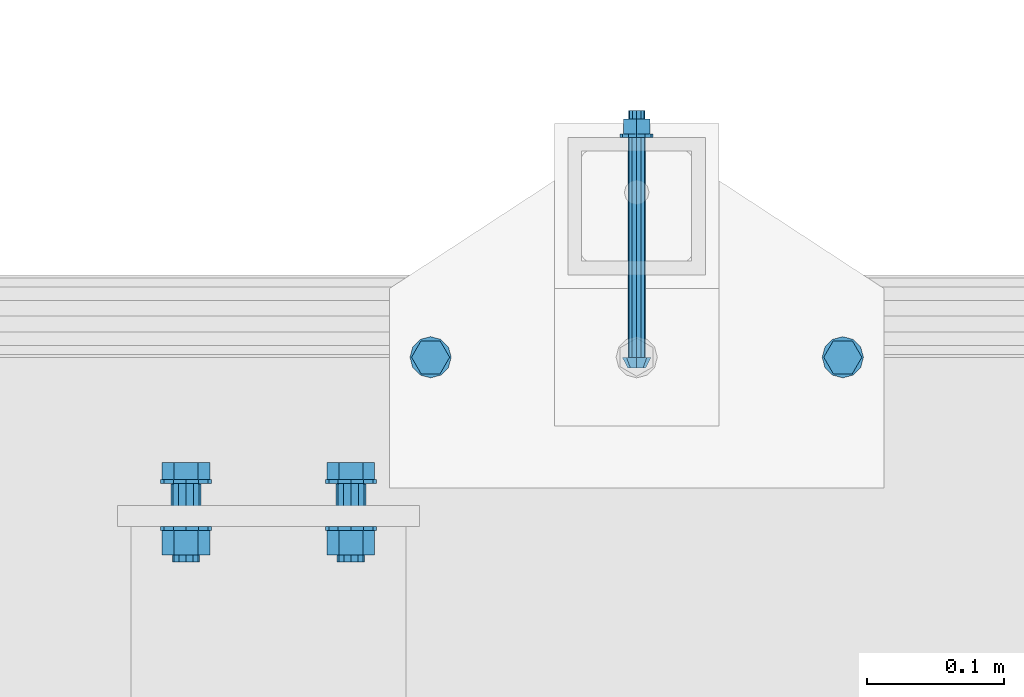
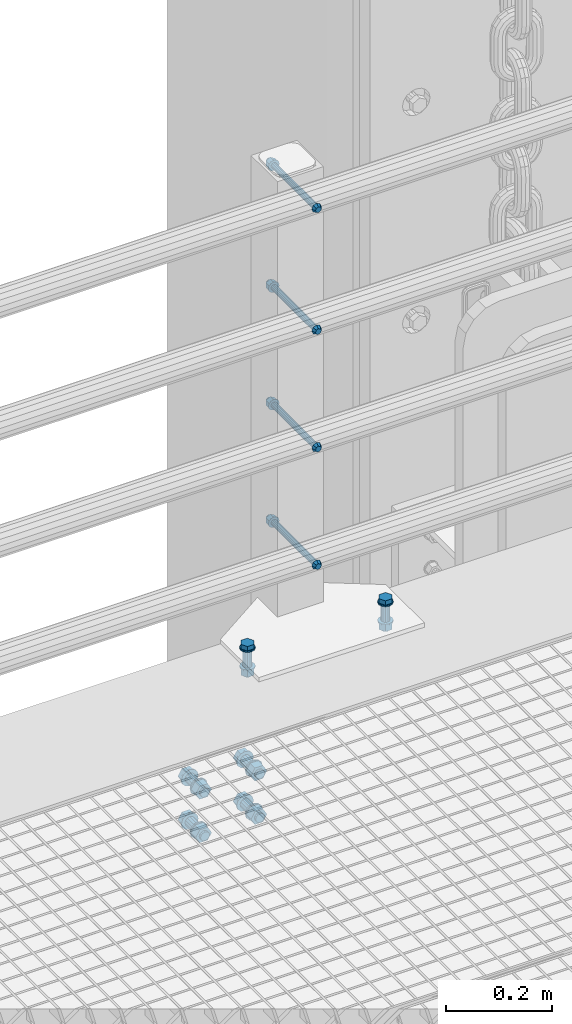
# One storey, part 45 of 1530: 6 mechanical fasteners.
"""IFC2X3 building model written with IfcOpenShell, lengths in millimetres."""

from ifc_helpers import new_model, si_unit, frame, origin_with_axes, place, context, subcontext, project, spatial, faceted_brep, source, transform, mapped, material, type_object, element, save


model = new_model("IFC2X3")

# Units and contexts
model_context = context("Model", 3, precision=1e-05, world=origin_with_axes())
body_context = subcontext(model_context, "Body", "Model", "MODEL_VIEW")
ifc_project = project(units=[si_unit("LENGTHUNIT", "METRE", prefix="MILLI"), si_unit("AREAUNIT", "SQUARE_METRE"), si_unit("VOLUMEUNIT", "CUBIC_METRE"), si_unit("MASSUNIT", "GRAM", prefix="KILO"), si_unit("TIMEUNIT", "SECOND"), si_unit("PLANEANGLEUNIT", "RADIAN"), si_unit("SOLIDANGLEUNIT", "STERADIAN"), si_unit("THERMODYNAMICTEMPERATUREUNIT", "DEGREE_CELSIUS"), si_unit("LUMINOUSINTENSITYUNIT", "LUMEN")], contexts=[model_context])

# Site, building, storey
site_placement = place(None, origin_with_axes())
site = spatial("IfcSite", under=ifc_project, at=site_placement, Name="Brattvåg", CompositionType="ELEMENT")
building_placement = place(site_placement, origin_with_axes())
building = spatial("IfcBuilding", under=site, at=building_placement, Name="Undefined", CompositionType="ELEMENT")
storey_placement = place(building_placement, origin_with_axes())
storey = spatial("IfcBuildingStorey", under=building, at=storey_placement, Name="Undefined", CompositionType="ELEMENT", Elevation=0.0)

# Mechanical fasteners
ifc_material = material(Name="8")
mechanical_fastener_type = type_object("IfcMechanicalFastenerType", Name="Bolt assembly")
shared_shape_1 = source(origin_with_axes(), body_context, "Body", "Brep", [
    faceted_brep([(6.49435320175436, -7.49984019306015, 0.0), (4.59220118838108, -7.49984019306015, 4.59220118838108), (3.97664443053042e-16, -7.49984019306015, 6.49435320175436), (-4.59220118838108, -7.49984019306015, 4.59220118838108), (-6.49435320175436, -7.49984019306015, 7.95328886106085e-16), (-4.59220118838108, -7.49984019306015, -4.59220118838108), (-1.19299332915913e-15, -7.49984019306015, -6.49435320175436), (4.59220118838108, -7.49984019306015, -4.59220118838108), (7.34846922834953, 0.000159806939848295, -7.34846922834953), (-1.90903542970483e-15, 0.000159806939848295, -10.3923048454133), (-7.34846922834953, 0.000159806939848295, -7.34846922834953), (-10.3923048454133, 0.000159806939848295, 1.27269028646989e-15), (-7.34846922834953, 0.000159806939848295, 7.34846922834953), (6.36345143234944e-16, 0.000159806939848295, 10.3923048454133), (7.34846922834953, 0.000159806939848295, 7.34846922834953), (10.3923048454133, 0.000159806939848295, 0.0), (6.0, 0.000159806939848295, 0.0), (5.19615242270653, 0.000159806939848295, 3.00000000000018), (2.99999999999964, 0.000159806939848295, 5.19615242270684), (-6.21801588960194e-13, 0.000159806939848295, 6.0), (-3.00000000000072, 0.000159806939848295, 5.19615242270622), (-5.19615242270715, 0.000159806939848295, 2.9999999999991), (-6.0, 0.000159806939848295, -1.24360317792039e-12), (-5.19615242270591, 0.000159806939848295, -3.00000000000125), (-2.99999999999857, 0.000159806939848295, -5.19615242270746), (1.85874342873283e-12, 0.000159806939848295, -6.0), (3.00000000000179, 0.000159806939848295, -5.1961524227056), (5.19615242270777, 0.000159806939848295, -2.99999999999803), (5.19615242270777, 180.00015980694, -2.99999999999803), (3.00000000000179, 180.00015980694, -5.1961524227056), (1.85874342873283e-12, 180.00015980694, -6.0), (-2.99999999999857, 180.00015980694, -5.19615242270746), (-5.19615242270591, 180.00015980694, -3.00000000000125), (-6.0, 180.00015980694, -1.24360317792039e-12), (-5.19615242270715, 180.00015980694, 2.9999999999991), (-3.00000000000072, 180.00015980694, 5.19615242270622), (-6.21801588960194e-13, 180.00015980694, 6.0), (2.99999999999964, 180.00015980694, 5.19615242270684), (5.19615242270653, 180.00015980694, 3.00000000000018), (6.0, 180.00015980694, 0.0), (12.0, 160.299998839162, 0.0), (10.3923048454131, 160.299998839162, 6.00000000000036), (5.99999999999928, 160.299998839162, 10.3923048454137), (-1.24360317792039e-12, 160.299998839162, 12.0), (-6.00000000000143, 160.299998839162, 10.3923048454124), (-10.3923048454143, 160.299998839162, 5.99999999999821), (-12.0, 160.299998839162, -2.48720635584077e-12), (-10.3923048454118, 160.299998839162, -6.00000000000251), (-5.99999999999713, 160.299998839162, -10.3923048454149), (3.71748685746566e-12, 160.299998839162, -12.0), (6.00000000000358, 160.299998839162, -10.3923048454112), (10.3923048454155, 160.299998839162, -5.99999999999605), (10.3923048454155, 162.799998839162, -5.99999999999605), (6.00000000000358, 162.799998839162, -10.3923048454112), (3.71748685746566e-12, 162.799998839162, -12.0), (-5.99999999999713, 162.799998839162, -10.3923048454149), (-10.3923048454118, 162.799998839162, -6.00000000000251), (-12.0, 162.799998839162, -2.48720635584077e-12), (-10.3923048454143, 162.799998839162, 5.99999999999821), (-6.00000000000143, 162.799998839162, 10.3923048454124), (-1.24360317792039e-12, 162.799998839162, 12.0), (5.99999999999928, 162.799998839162, 10.3923048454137), (10.3923048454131, 162.799998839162, 6.00000000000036), (12.0, 162.799998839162, 0.0), (10.9696551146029, 162.799998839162, 0.0), (5.48482755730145, 162.799998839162, 9.5), (-5.48482755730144, 162.799998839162, 9.5), (-10.9696551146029, 162.799998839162, 1.34339530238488e-15), (-5.48482755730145, 162.799998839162, -9.5), (5.48482755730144, 162.799998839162, -9.5), (5.48482755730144, 173.599999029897, -9.5), (-5.48482755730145, 173.599999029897, -9.5), (-10.9696551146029, 173.599999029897, 1.34339530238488e-15), (-5.48482755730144, 173.599999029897, 9.5), (5.48482755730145, 173.599999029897, 9.5), (10.9696551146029, 173.599999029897, 0.0)], [[[0, 1, 2, 3, 4, 5, 6, 7]], [[8, 9, 10, 11, 12, 13, 14, 15]], [[0, 15, 14, 1]], [[1, 14, 13, 2]], [[2, 13, 12, 3]], [[3, 12, 11, 4]], [[4, 11, 10, 5]], [[5, 10, 9, 6]], [[6, 9, 8, 7]], [[7, 8, 15, 0]], [[16, 17, 18, 19, 20, 21, 22, 23, 24, 25, 26, 27]], [[28, 29, 30, 31, 32, 33, 34, 35, 36, 37, 38, 39]], [[16, 39, 38, 17]], [[17, 38, 37, 18]], [[18, 37, 36, 19]], [[19, 36, 35, 20]], [[20, 35, 34, 21]], [[21, 34, 33, 22]], [[22, 33, 32, 23]], [[23, 32, 31, 24]], [[24, 31, 30, 25]], [[25, 30, 29, 26]], [[26, 29, 28, 27]], [[27, 28, 39, 16]], [[40, 41, 42, 43, 44, 45, 46, 47, 48, 49, 50, 51]], [[52, 53, 54, 55, 56, 57, 58, 59, 60, 61, 62, 63]], [[40, 63, 62, 41]], [[41, 62, 61, 42]], [[42, 61, 60, 43]], [[43, 60, 59, 44]], [[44, 59, 58, 45]], [[45, 58, 57, 46]], [[46, 57, 56, 47]], [[47, 56, 55, 48]], [[48, 55, 54, 49]], [[49, 54, 53, 50]], [[50, 53, 52, 51]], [[51, 52, 63, 40]], [[64, 65, 66, 67, 68, 69]], [[70, 71, 72, 73, 74, 75]], [[64, 75, 74, 65]], [[65, 74, 73, 66]], [[66, 73, 72, 67]], [[67, 72, 71, 68]], [[68, 71, 70, 69]], [[69, 70, 75, 64]]]),
    faceted_brep([(6.5, 0.100159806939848, 0.0), (5.62916512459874, 0.100159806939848, 3.25000000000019), (3.24999999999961, 0.100159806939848, 5.62916512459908), (-6.7361838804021e-13, 0.100159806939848, 6.5), (-3.25000000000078, 0.100159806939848, 5.6291651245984), (-5.62916512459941, 0.100159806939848, 3.24999999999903), (-6.5, 0.100159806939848, -1.34723677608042e-12), (-5.62916512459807, 0.100159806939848, -3.25000000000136), (-3.24999999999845, 0.100159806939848, -5.62916512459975), (2.01363871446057e-12, 0.100159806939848, -6.5), (3.25000000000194, 0.100159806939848, -5.62916512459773), (5.62916512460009, 0.100159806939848, -3.24999999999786), (5.62916512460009, 60.4001552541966, -3.24999999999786), (3.25000000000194, 60.4001552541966, -5.62916512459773), (2.01363871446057e-12, 60.4001552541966, -6.5), (-3.24999999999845, 60.4001552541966, -5.62916512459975), (-5.62916512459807, 60.4001552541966, -3.25000000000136), (-6.5, 60.4001552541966, -1.34723677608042e-12), (-5.62916512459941, 60.4001552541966, 3.24999999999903), (-3.25000000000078, 60.4001552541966, 5.6291651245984), (-6.7361838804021e-13, 60.4001552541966, 6.5), (3.24999999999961, 60.4001552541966, 5.62916512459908), (5.62916512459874, 60.4001552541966, 3.25000000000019), (6.5, 60.4001552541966, 0.0), (6.5, 60.1999988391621, 0.0), (5.62916512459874, 60.1999988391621, 3.25000000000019), (3.24999999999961, 60.1999988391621, 5.62916512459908), (-6.7361838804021e-13, 60.1999988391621, 6.5), (-3.25000000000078, 60.1999988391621, 5.6291651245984), (-5.62916512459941, 60.1999988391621, 3.24999999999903), (-6.5, 60.1999988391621, -1.34723677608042e-12), (-5.62916512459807, 60.1999988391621, -3.25000000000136), (-3.24999999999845, 60.1999988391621, -5.62916512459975), (2.01363871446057e-12, 60.1999988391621, -6.5), (3.25000000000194, 60.1999988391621, -5.62916512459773), (5.62916512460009, 60.1999988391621, -3.24999999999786), (5.62916512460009, 160.299998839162, -3.24999999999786), (3.25000000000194, 160.299998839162, -5.62916512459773), (2.01363871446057e-12, 160.299998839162, -6.5), (-3.24999999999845, 160.299998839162, -5.62916512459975), (-5.62916512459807, 160.299998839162, -3.25000000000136), (-6.5, 160.299998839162, -1.34723677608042e-12), (-5.62916512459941, 160.299998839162, 3.24999999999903), (-3.25000000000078, 160.299998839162, 5.6291651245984), (-6.7361838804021e-13, 160.299998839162, 6.5), (3.24999999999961, 160.299998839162, 5.62916512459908), (5.62916512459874, 160.299998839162, 3.25000000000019), (6.5, 160.299998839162, 0.0)], [[[0, 1, 2, 3, 4, 5, 6, 7, 8, 9, 10, 11]], [[12, 13, 14, 15, 16, 17, 18, 19, 20, 21, 22, 23]], [[0, 23, 22, 1]], [[1, 22, 21, 2]], [[2, 21, 20, 3]], [[3, 20, 19, 4]], [[4, 19, 18, 5]], [[5, 18, 17, 6]], [[6, 17, 16, 7]], [[7, 16, 15, 8]], [[8, 15, 14, 9]], [[9, 14, 13, 10]], [[10, 13, 12, 11]], [[11, 12, 23, 0]], [[24, 25, 26, 27, 28, 29, 30, 31, 32, 33, 34, 35]], [[36, 37, 38, 39, 40, 41, 42, 43, 44, 45, 46, 47]], [[24, 47, 46, 25]], [[25, 46, 45, 26]], [[26, 45, 44, 27]], [[27, 44, 43, 28]], [[28, 43, 42, 29]], [[29, 42, 41, 30]], [[30, 41, 40, 31]], [[31, 40, 39, 32]], [[32, 39, 38, 33]], [[33, 38, 37, 34]], [[34, 37, 36, 35]], [[35, 36, 47, 24]]]),
])
for number, where, z_axis, x_axis, name in (
    (1, (11349.9999999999, 9099.69972268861, 149.550000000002), (1.0, 0.0, 0.0), (0.0, 0.0, -1.0), "Bolt assembly"),
    (2, (11349.9999999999, 9099.69972268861, 419.550000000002), (1.0, 0.0, 0.0), (0.0, 0.0, -1.0), "Bolt assembly"),
    (3, (11349.9999999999, 9099.69972268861, 689.550000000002), (1.0, 0.0, 0.0), (0.0, 0.0, -1.0), "Bolt assembly"),
    (4, (11349.9999999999, 9099.69972268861, 969.550000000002), (1.0, 0.0, 0.0), (0.0, 0.0, -1.0), "Bolt assembly"),
):
    element("IfcMechanicalFastener", number, at=place(storey_placement, frame(where, z_axis=z_axis, x_axis=x_axis)), inside=storey, type_object=mechanical_fastener_type, material=ifc_material, Name=name, NominalDiameter=12.0, NominalLength=180.0, context=body_context, shape_type="MappedRepresentation", body=[
        mapped(shared_shape_1, transform((0.0, 0.0, 0.0))),
    ])
shared_shape_2 = source(origin_with_axes(), body_context, "Body", "Brep", [
    faceted_brep([(13.856406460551, -13.0, 0.0), (6.92820323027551, -13.0, 12.0), (-6.92820323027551, -13.0, 12.0), (-13.856406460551, -13.0, 1.69692038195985e-15), (-6.92820323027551, -13.0, -12.0), (6.9282032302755, -13.0, -12.0), (6.9282032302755, -3.0, -12.0), (-6.92820323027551, -3.0, -12.0), (-13.856406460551, -3.0, 1.69692038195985e-15), (-6.92820323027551, -3.0, 12.0), (6.92820323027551, -3.0, 12.0), (13.856406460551, -3.0, 0.0), (8.0, -3.0, 0.0), (6.92820323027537, -3.0, 4.00000000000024), (3.99999999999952, -3.0, 6.92820323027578), (-8.29068785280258e-13, -3.0, 8.0), (-4.00000000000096, -3.0, 6.92820323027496), (-6.9282032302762, -3.0, 3.99999999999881), (-8.0, -3.0, -1.65813757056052e-12), (-6.92820323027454, -3.0, -4.00000000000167), (-3.99999999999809, -3.0, -6.92820323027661), (2.47832457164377e-12, -3.0, -8.0), (4.00000000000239, -3.0, -6.92820323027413), (6.92820323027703, -3.0, -3.99999999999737), (6.92820323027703, 62.0000000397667, -3.99999999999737), (4.00000000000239, 62.0000000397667, -6.92820323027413), (2.47832457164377e-12, 62.0000000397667, -8.0), (-3.99999999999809, 62.0000000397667, -6.92820323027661), (-6.92820323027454, 62.0000000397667, -4.00000000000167), (-8.0, 62.0000000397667, -1.65813757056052e-12), (-6.9282032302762, 62.0000000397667, 3.99999999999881), (-4.00000000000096, 62.0000000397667, 6.92820323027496), (-8.29068785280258e-13, 62.0000000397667, 8.0), (3.99999999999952, 62.0000000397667, 6.92820323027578), (6.92820323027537, 62.0000000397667, 4.00000000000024), (8.0, 62.0000000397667, 0.0), (15.0, -3.0, 0.0), (12.9903810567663, -3.0, 7.50000000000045), (7.4999999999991, -3.0, 12.9903810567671), (-1.55450397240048e-12, -3.0, 15.0), (-7.50000000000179, -3.0, 12.9903810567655), (-12.9903810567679, -3.0, 7.49999999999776), (-15.0, -3.0, -3.10900794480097e-12), (-12.9903810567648, -3.0, -7.50000000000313), (-7.49999999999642, -3.0, -12.9903810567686), (4.64685857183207e-12, -3.0, -15.0), (7.50000000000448, -3.0, -12.990381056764), (12.9903810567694, -3.0, -7.49999999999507), (12.9903810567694, 0.0, -7.49999999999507), (7.50000000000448, 0.0, -12.990381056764), (0.0, 0.0, -15.0), (-7.49999999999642, 0.0, -12.9903810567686), (-12.9903810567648, 0.0, -7.50000000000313), (-15.0, 0.0, -3.10900794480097e-12), (-12.9903810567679, 0.0, 7.49999999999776), (-7.50000000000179, 0.0, 12.9903810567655), (0.0, 0.0, 15.0), (7.4999999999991, 0.0, 12.9903810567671), (12.9903810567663, 0.0, 7.50000000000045), (15.0, 0.0, 0.0), (15.0, 39.9997390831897, 0.0), (12.9903810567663, 39.9997390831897, 7.50000000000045), (7.4999999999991, 39.9997390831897, 12.9903810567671), (-1.55450397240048e-12, 39.9997390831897, 15.0), (-7.50000000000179, 39.9997390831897, 12.9903810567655), (-12.9903810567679, 39.9997390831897, 7.49999999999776), (-15.0, 39.9997390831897, -3.10900794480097e-12), (-12.9903810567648, 39.9997390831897, -7.50000000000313), (-7.49999999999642, 39.9997390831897, -12.9903810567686), (4.64685857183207e-12, 39.9997390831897, -15.0), (7.50000000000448, 39.9997390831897, -12.990381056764), (12.9903810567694, 39.9997390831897, -7.49999999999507), (12.9903810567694, 42.9997390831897, -7.49999999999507), (7.50000000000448, 42.9997390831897, -12.990381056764), (4.64685857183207e-12, 42.9997390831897, -15.0), (-7.49999999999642, 42.9997390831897, -12.9903810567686), (-12.9903810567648, 42.9997390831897, -7.50000000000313), (-15.0, 42.9997390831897, -3.10900794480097e-12), (-12.9903810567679, 42.9997390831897, 7.49999999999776), (-7.50000000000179, 42.9997390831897, 12.9903810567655), (-1.55450397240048e-12, 42.9997390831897, 15.0), (7.4999999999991, 42.9997390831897, 12.9903810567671), (12.9903810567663, 42.9997390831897, 7.50000000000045), (15.0, 42.9997390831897, 0.0), (13.856406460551, 42.9997390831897, 0.0), (6.92820323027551, 42.9997390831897, 12.0), (-6.92820323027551, 42.9997390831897, 12.0), (-13.856406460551, 42.9997390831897, 1.69692038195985e-15), (-6.92820323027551, 42.9997390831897, -12.0), (6.9282032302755, 42.9997390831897, -12.0), (6.9282032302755, 57.7997392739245, -12.0), (-6.92820323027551, 57.7997392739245, -12.0), (-13.856406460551, 57.7997392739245, 1.69692038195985e-15), (-6.92820323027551, 57.7997392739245, 12.0), (6.92820323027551, 57.7997392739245, 12.0), (13.856406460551, 57.7997392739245, 0.0)], [[[0, 1, 2, 3, 4, 5]], [[6, 7, 8, 9, 10, 11]], [[0, 11, 10, 1]], [[1, 10, 9, 2]], [[2, 9, 8, 3]], [[3, 8, 7, 4]], [[4, 7, 6, 5]], [[5, 6, 11, 0]], [[12, 13, 14, 15, 16, 17, 18, 19, 20, 21, 22, 23]], [[24, 25, 26, 27, 28, 29, 30, 31, 32, 33, 34, 35]], [[12, 35, 34, 13]], [[13, 34, 33, 14]], [[14, 33, 32, 15]], [[15, 32, 31, 16]], [[16, 31, 30, 17]], [[17, 30, 29, 18]], [[18, 29, 28, 19]], [[19, 28, 27, 20]], [[20, 27, 26, 21]], [[21, 26, 25, 22]], [[22, 25, 24, 23]], [[23, 24, 35, 12]], [[36, 37, 38, 39, 40, 41, 42, 43, 44, 45, 46, 47]], [[48, 49, 50, 51, 52, 53, 54, 55, 56, 57, 58, 59]], [[36, 59, 58, 37]], [[37, 58, 57, 38]], [[38, 57, 56, 39]], [[39, 56, 55, 40]], [[40, 55, 54, 41]], [[41, 54, 53, 42]], [[42, 53, 52, 43]], [[43, 52, 51, 44]], [[44, 51, 50, 45]], [[45, 50, 49, 46]], [[46, 49, 48, 47]], [[47, 48, 59, 36]], [[60, 61, 62, 63, 64, 65, 66, 67, 68, 69, 70, 71]], [[72, 73, 74, 75, 76, 77, 78, 79, 80, 81, 82, 83]], [[60, 83, 82, 61]], [[61, 82, 81, 62]], [[62, 81, 80, 63]], [[63, 80, 79, 64]], [[64, 79, 78, 65]], [[65, 78, 77, 66]], [[66, 77, 76, 67]], [[67, 76, 75, 68]], [[68, 75, 74, 69]], [[69, 74, 73, 70]], [[70, 73, 72, 71]], [[71, 72, 83, 60]], [[84, 85, 86, 87, 88, 89]], [[90, 91, 92, 93, 94, 95]], [[84, 95, 94, 85]], [[85, 94, 93, 86]], [[86, 93, 92, 87]], [[87, 92, 91, 88]], [[88, 91, 90, 89]], [[89, 90, 95, 84]]]),
    faceted_brep([(9.0, 0.1, 0.0), (7.79422863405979, 0.1, 4.50000000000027), (4.49999999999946, 0.1, 7.79422863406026), (-9.3270238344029e-13, 0.1, 9.0), (-4.50000000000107, 0.1, 7.79422863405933), (-7.79422863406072, 0.1, 4.49999999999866), (-9.0, 0.1, -1.86540476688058e-12), (-7.79422863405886, 0.1, -4.50000000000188), (-4.49999999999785, 0.1, -7.79422863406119), (2.78811514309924e-12, 0.1, -9.0), (4.50000000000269, 0.1, -7.7942286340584), (7.79422863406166, 0.1, -4.49999999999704), (7.79422863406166, 10.1, -4.49999999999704), (4.50000000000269, 10.1, -7.7942286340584), (2.78811514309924e-12, 10.1, -9.0), (-4.49999999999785, 10.1, -7.79422863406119), (-7.79422863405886, 10.1, -4.50000000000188), (-9.0, 10.1, -1.86540476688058e-12), (-7.79422863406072, 10.1, 4.49999999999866), (-4.50000000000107, 10.1, 7.79422863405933), (-9.3270238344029e-13, 10.1, 9.0), (4.49999999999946, 10.1, 7.79422863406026), (7.79422863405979, 10.1, 4.50000000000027), (9.0, 10.1, 0.0), (9.0, 9.8997390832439, 0.0), (7.79422863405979, 9.8997390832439, 4.50000000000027), (4.49999999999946, 9.8997390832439, 7.79422863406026), (-9.3270238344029e-13, 9.8997390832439, 9.0), (-4.50000000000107, 9.8997390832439, 7.79422863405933), (-7.79422863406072, 9.8997390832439, 4.49999999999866), (-9.0, 9.8997390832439, -1.86540476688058e-12), (-7.79422863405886, 9.8997390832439, -4.50000000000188), (-4.49999999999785, 9.8997390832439, -7.79422863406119), (2.78811514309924e-12, 9.8997390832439, -9.0), (4.50000000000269, 9.8997390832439, -7.7942286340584), (7.79422863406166, 9.8997390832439, -4.49999999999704), (7.79422863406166, 39.9997390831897, -4.49999999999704), (4.50000000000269, 39.9997390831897, -7.7942286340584), (2.78811514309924e-12, 39.9997390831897, -9.0), (-4.49999999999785, 39.9997390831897, -7.79422863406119), (-7.79422863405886, 39.9997390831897, -4.50000000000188), (-9.0, 39.9997390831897, -1.86540476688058e-12), (-7.79422863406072, 39.9997390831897, 4.49999999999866), (-4.50000000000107, 39.9997390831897, 7.79422863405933), (-9.3270238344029e-13, 39.9997390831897, 9.0), (4.49999999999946, 39.9997390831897, 7.79422863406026), (7.79422863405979, 39.9997390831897, 4.50000000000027), (9.0, 39.9997390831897, 0.0)], [[[0, 1, 2, 3, 4, 5, 6, 7, 8, 9, 10, 11]], [[12, 13, 14, 15, 16, 17, 18, 19, 20, 21, 22, 23]], [[0, 23, 22, 1]], [[1, 22, 21, 2]], [[2, 21, 20, 3]], [[3, 20, 19, 4]], [[4, 19, 18, 5]], [[5, 18, 17, 6]], [[6, 17, 16, 7]], [[7, 16, 15, 8]], [[8, 15, 14, 9]], [[9, 14, 13, 10]], [[10, 13, 12, 11]], [[11, 12, 23, 0]], [[24, 25, 26, 27, 28, 29, 30, 31, 32, 33, 34, 35]], [[36, 37, 38, 39, 40, 41, 42, 43, 44, 45, 46, 47]], [[24, 47, 46, 25]], [[25, 46, 45, 26]], [[26, 45, 44, 27]], [[27, 44, 43, 28]], [[28, 43, 42, 29]], [[29, 42, 41, 30]], [[30, 41, 40, 31]], [[31, 40, 39, 32]], [[32, 39, 38, 33]], [[33, 38, 37, 34]], [[34, 37, 36, 35]], [[35, 36, 47, 24]]]),
])
mechanical_fastener_1_placement = place(storey_placement, frame((11200.0008086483, 9099.99960715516, 9.99973908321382), z_axis=(0.0, 1.0, 0.0), x_axis=(1.0, 0.0, 0.0)))
element("IfcMechanicalFastener", 5, at=mechanical_fastener_1_placement, inside=storey, type_object=mechanical_fastener_type, material=ifc_material, Name="Bolt assembly", NominalDiameter=16.0, NominalLength=65.0, context=body_context, shape_type="MappedRepresentation", body=[
    mapped(shared_shape_2, transform((0.0, 0.0, 0.0))),
    mapped(shared_shape_2, transform((300.0, 0.0, 0.0))),
])
shared_shape_3 = source(origin_with_axes(), body_context, "Body", "Brep", [
    faceted_brep([(17.3205080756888, -31.4985046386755, 0.0), (8.66025403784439, -31.4985046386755, 15.0), (-8.66025403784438, -31.4985046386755, 15.0), (-17.3205080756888, -31.4985046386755, 2.12115047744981e-15), (-8.66025403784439, -31.4985046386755, -15.0), (8.66025403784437, -31.4985046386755, -15.0), (8.66025403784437, -18.9985046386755, -15.0), (-8.66025403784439, -18.9985046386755, -15.0), (-17.3205080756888, -18.9985046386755, 2.12115047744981e-15), (-8.66025403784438, -18.9985046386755, 15.0), (8.66025403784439, -18.9985046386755, 15.0), (17.3205080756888, -18.9985046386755, 0.0), (10.0, -18.9985046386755, 0.0), (8.66025403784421, -18.9985046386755, 5.0000000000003), (4.9999999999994, -18.9985046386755, 8.66025403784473), (-1.03633598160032e-12, -18.9985046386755, 10.0), (-5.00000000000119, -18.9985046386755, 8.6602540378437), (-8.66025403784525, -18.9985046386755, 4.99999999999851), (-10.0, -18.9985046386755, -2.07267196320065e-12), (-8.66025403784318, -18.9985046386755, -5.00000000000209), (-4.99999999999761, -18.9985046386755, -8.66025403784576), (3.09790571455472e-12, -18.9985046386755, -10.0), (5.00000000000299, -18.9985046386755, -8.66025403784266), (8.66025403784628, -18.9985046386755, -4.99999999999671), (8.66025403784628, 41.0014953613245, -4.99999999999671), (5.00000000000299, 41.0014953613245, -8.66025403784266), (3.09790571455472e-12, 41.0014953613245, -10.0), (-4.99999999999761, 41.0014953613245, -8.66025403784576), (-8.66025403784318, 41.0014953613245, -5.00000000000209), (-10.0, 41.0014953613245, -2.07267196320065e-12), (-8.66025403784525, 41.0014953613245, 4.99999999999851), (-5.00000000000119, 41.0014953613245, 8.6602540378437), (-1.03633598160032e-12, 41.0014953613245, 10.0), (4.9999999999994, 41.0014953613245, 8.66025403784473), (8.66025403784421, 41.0014953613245, 5.0000000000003), (10.0, 41.0014953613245, 0.0), (18.5, -18.9985046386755, 0.0), (16.0214699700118, -18.9985046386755, 9.25000000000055), (9.2499999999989, -18.9985046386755, 16.0214699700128), (-1.9172215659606e-12, -18.9985046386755, 18.5), (-9.25000000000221, -18.9985046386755, 16.0214699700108), (-16.0214699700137, -18.9985046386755, 9.24999999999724), (-18.5, -18.9985046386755, -3.83444313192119e-12), (-16.0214699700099, -18.9985046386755, -9.25000000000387), (-9.24999999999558, -18.9985046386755, -16.0214699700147), (5.73112557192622e-12, -18.9985046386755, -18.5), (9.25000000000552, -18.9985046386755, -16.0214699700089), (16.0214699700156, -18.9985046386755, -9.24999999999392), (16.0214699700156, -15.9985046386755, -9.24999999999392), (9.25000000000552, -15.9985046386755, -16.0214699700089), (5.73112557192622e-12, -15.9985046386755, -18.5), (-9.24999999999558, -15.9985046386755, -16.0214699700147), (-16.0214699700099, -15.9985046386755, -9.25000000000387), (-18.5, -15.9985046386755, -3.83444313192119e-12), (-16.0214699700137, -15.9985046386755, 9.24999999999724), (-9.25000000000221, -15.9985046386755, 16.0214699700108), (-1.9172215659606e-12, -15.9985046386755, 18.5), (9.2499999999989, -15.9985046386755, 16.0214699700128), (16.0214699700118, -15.9985046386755, 9.25000000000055), (18.5, -15.9985046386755, 0.0), (18.5, 15.0000000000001, 0.0), (16.0214699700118, 15.0000000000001, 9.25000000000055), (9.2499999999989, 15.0000000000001, 16.0214699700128), (-1.9172215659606e-12, 15.0000000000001, 18.5), (-9.25000000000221, 15.0000000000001, 16.0214699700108), (-16.0214699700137, 15.0000000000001, 9.24999999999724), (-18.5, 15.0000000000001, -3.83444313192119e-12), (-16.0214699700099, 15.0000000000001, -9.25000000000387), (-9.24999999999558, 15.0000000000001, -16.0214699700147), (5.73112557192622e-12, 15.0000000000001, -18.5), (9.25000000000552, 15.0000000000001, -16.0214699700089), (16.0214699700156, 15.0000000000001, -9.24999999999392), (16.0214699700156, 18.0000000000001, -9.24999999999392), (9.25000000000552, 18.0000000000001, -16.0214699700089), (5.73112557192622e-12, 18.0000000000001, -18.5), (-9.24999999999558, 18.0000000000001, -16.0214699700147), (-16.0214699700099, 18.0000000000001, -9.25000000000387), (-18.5, 18.0000000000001, -3.83444313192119e-12), (-16.0214699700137, 18.0000000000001, 9.24999999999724), (-9.25000000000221, 18.0000000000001, 16.0214699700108), (-1.9172215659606e-12, 18.0000000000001, 18.5), (9.2499999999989, 18.0000000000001, 16.0214699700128), (16.0214699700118, 18.0000000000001, 9.25000000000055), (18.5, 18.0000000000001, 0.0), (17.3205080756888, 18.0000000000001, 0.0), (8.66025403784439, 18.0000000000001, 15.0), (-8.66025403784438, 18.0000000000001, 15.0), (-17.3205080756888, 18.0000000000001, 2.12115047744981e-15), (-8.66025403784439, 18.0000000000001, -15.0), (8.66025403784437, 18.0000000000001, -15.0), (8.66025403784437, 36.0000000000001, -15.0), (-8.66025403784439, 36.0000000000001, -15.0), (-17.3205080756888, 36.0000000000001, 2.12115047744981e-15), (-8.66025403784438, 36.0000000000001, 15.0), (8.66025403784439, 36.0000000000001, 15.0), (17.3205080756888, 36.0000000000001, 0.0)], [[[0, 1, 2, 3, 4, 5]], [[6, 7, 8, 9, 10, 11]], [[0, 11, 10, 1]], [[1, 10, 9, 2]], [[2, 9, 8, 3]], [[3, 8, 7, 4]], [[4, 7, 6, 5]], [[5, 6, 11, 0]], [[12, 13, 14, 15, 16, 17, 18, 19, 20, 21, 22, 23]], [[24, 25, 26, 27, 28, 29, 30, 31, 32, 33, 34, 35]], [[12, 35, 34, 13]], [[13, 34, 33, 14]], [[14, 33, 32, 15]], [[15, 32, 31, 16]], [[16, 31, 30, 17]], [[17, 30, 29, 18]], [[18, 29, 28, 19]], [[19, 28, 27, 20]], [[20, 27, 26, 21]], [[21, 26, 25, 22]], [[22, 25, 24, 23]], [[23, 24, 35, 12]], [[36, 37, 38, 39, 40, 41, 42, 43, 44, 45, 46, 47]], [[48, 49, 50, 51, 52, 53, 54, 55, 56, 57, 58, 59]], [[36, 59, 58, 37]], [[37, 58, 57, 38]], [[38, 57, 56, 39]], [[39, 56, 55, 40]], [[40, 55, 54, 41]], [[41, 54, 53, 42]], [[42, 53, 52, 43]], [[43, 52, 51, 44]], [[44, 51, 50, 45]], [[45, 50, 49, 46]], [[46, 49, 48, 47]], [[47, 48, 59, 36]], [[60, 61, 62, 63, 64, 65, 66, 67, 68, 69, 70, 71]], [[72, 73, 74, 75, 76, 77, 78, 79, 80, 81, 82, 83]], [[60, 83, 82, 61]], [[61, 82, 81, 62]], [[62, 81, 80, 63]], [[63, 80, 79, 64]], [[64, 79, 78, 65]], [[65, 78, 77, 66]], [[66, 77, 76, 67]], [[67, 76, 75, 68]], [[68, 75, 74, 69]], [[69, 74, 73, 70]], [[70, 73, 72, 71]], [[71, 72, 83, 60]], [[84, 85, 86, 87, 88, 89]], [[90, 91, 92, 93, 94, 95]], [[84, 95, 94, 85]], [[85, 94, 93, 86]], [[86, 93, 92, 87]], [[87, 92, 91, 88]], [[88, 91, 90, 89]], [[89, 90, 95, 84]]]),
    faceted_brep([(11.0, -15.8985046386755, 0.0), (9.52627944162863, -15.8985046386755, 5.50000000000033), (5.49999999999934, -15.8985046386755, 9.5262794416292), (-1.13996957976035e-12, -15.8985046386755, 11.0), (-5.50000000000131, -15.8985046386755, 9.52627944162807), (-9.52627944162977, -15.8985046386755, 5.49999999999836), (-11.0, -15.8985046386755, -2.27993915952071e-12), (-9.5262794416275, -15.8985046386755, -5.5000000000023), (-5.49999999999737, -15.8985046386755, -9.52627944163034), (3.40769628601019e-12, -15.8985046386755, -11.0), (5.50000000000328, -15.8985046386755, -9.52627944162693), (9.52627944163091, -15.8985046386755, -5.49999999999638), (9.52627944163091, 0.101495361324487, -5.49999999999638), (5.50000000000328, 0.101495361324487, -9.52627944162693), (3.40769628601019e-12, 0.101495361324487, -11.0), (-5.49999999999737, 0.101495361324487, -9.52627944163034), (-9.5262794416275, 0.101495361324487, -5.5000000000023), (-11.0, 0.101495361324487, -2.27993915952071e-12), (-9.52627944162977, 0.101495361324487, 5.49999999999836), (-5.50000000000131, 0.101495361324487, 9.52627944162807), (-1.13996957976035e-12, 0.101495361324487, 11.0), (5.49999999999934, 0.101495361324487, 9.5262794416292), (9.52627944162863, 0.101495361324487, 5.50000000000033), (11.0, 0.101495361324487, 0.0), (11.0, -0.1, 0.0), (9.52627944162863, -0.1, 5.50000000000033), (5.49999999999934, -0.1, 9.5262794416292), (-1.13996957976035e-12, -0.1, 11.0), (-5.50000000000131, -0.1, 9.52627944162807), (-9.52627944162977, -0.1, 5.49999999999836), (-11.0, -0.1, -2.27993915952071e-12), (-9.5262794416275, -0.1, -5.5000000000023), (-5.49999999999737, -0.1, -9.52627944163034), (3.40769628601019e-12, -0.1, -11.0), (5.50000000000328, -0.1, -9.52627944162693), (9.52627944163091, -0.1, -5.49999999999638), (9.52627944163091, 15.0000000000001, -5.49999999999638), (5.50000000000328, 15.0000000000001, -9.52627944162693), (3.40769628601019e-12, 15.0000000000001, -11.0), (-5.49999999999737, 15.0000000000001, -9.52627944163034), (-9.5262794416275, 15.0000000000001, -5.5000000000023), (-11.0, 15.0000000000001, -2.27993915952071e-12), (-9.52627944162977, 15.0000000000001, 5.49999999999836), (-5.50000000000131, 15.0000000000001, 9.52627944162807), (-1.13996957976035e-12, 15.0000000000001, 11.0), (5.49999999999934, 15.0000000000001, 9.5262794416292), (9.52627944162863, 15.0000000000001, 5.50000000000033), (11.0, 15.0000000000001, 0.0)], [[[0, 1, 2, 3, 4, 5, 6, 7, 8, 9, 10, 11]], [[12, 13, 14, 15, 16, 17, 18, 19, 20, 21, 22, 23]], [[0, 23, 22, 1]], [[1, 22, 21, 2]], [[2, 21, 20, 3]], [[3, 20, 19, 4]], [[4, 19, 18, 5]], [[5, 18, 17, 6]], [[6, 17, 16, 7]], [[7, 16, 15, 8]], [[8, 15, 14, 9]], [[9, 14, 13, 10]], [[10, 13, 12, 11]], [[11, 12, 23, 0]], [[24, 25, 26, 27, 28, 29, 30, 31, 32, 33, 34, 35]], [[36, 37, 38, 39, 40, 41, 42, 43, 44, 45, 46, 47]], [[24, 47, 46, 25]], [[25, 46, 45, 26]], [[26, 45, 44, 27]], [[27, 44, 43, 28]], [[28, 43, 42, 29]], [[29, 42, 41, 30]], [[30, 41, 40, 31]], [[31, 40, 39, 32]], [[32, 39, 38, 33]], [[33, 38, 37, 34]], [[34, 37, 36, 35]], [[35, 36, 47, 24]]]),
])
mechanical_fastener_2_placement = place(storey_placement, frame((11142.0019683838, 8992.00149536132, -219.998836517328), z_axis=(0.0, 0.0, 1.0), x_axis=(-1.0, 1.99999855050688e-09, 0.0)))
element("IfcMechanicalFastener", 6, at=mechanical_fastener_2_placement, inside=storey, type_object=mechanical_fastener_type, material=ifc_material, Name="Bolt assembly", NominalDiameter=20.0, NominalLength=60.0, context=body_context, shape_type="MappedRepresentation", body=[
    mapped(shared_shape_3, transform((0.0, 0.0, -50.0))),
    mapped(shared_shape_3, transform((120.0, 0.0, -50.0))),
    mapped(shared_shape_3, transform((0.0, 0.0, 50.0))),
    mapped(shared_shape_3, transform((120.0, 0.0, 50.0))),
])

save(model, "model.ifc")
